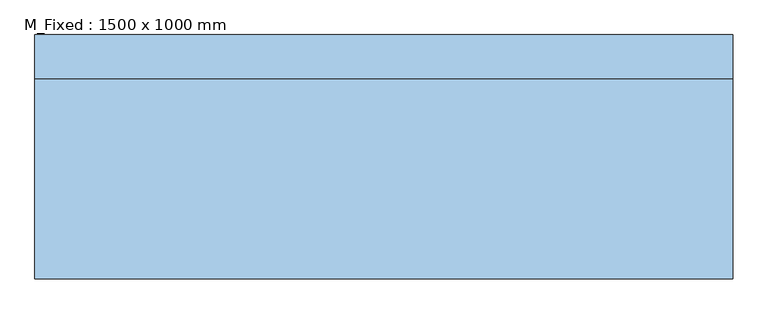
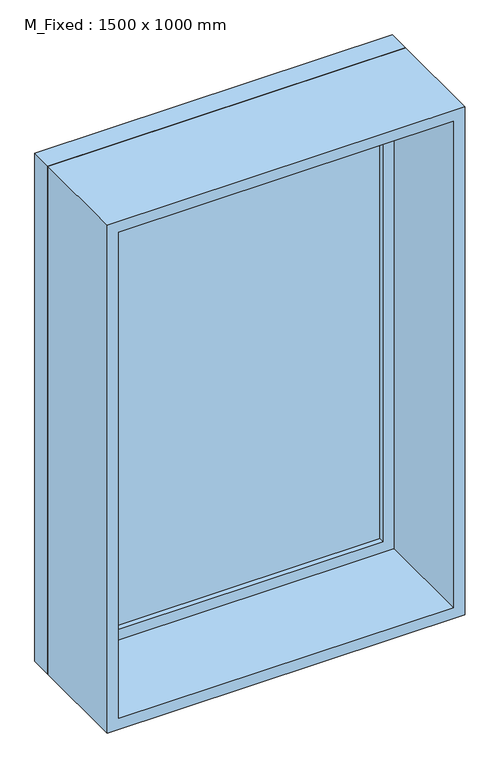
"""IFC4 building model written with IfcOpenShell, lengths in millimetres: window geometry, M_Fixed : 1500 x 1000 mm."""

from ifc_helpers import new_model, si_unit, frame, origin, place, context, project, spatial, polyline, outline, extrude, source, transform, mapped, element, save


def m_fixed_1500_x_1000_mm_dfda1408(model_context):
    return source(origin(), model_context, "Body", "SweptSolid", [
        extrude(outline(polyline([(-437.0, 153.0), (437.0, 153.0), (437.0, 141.0), (-437.0, 141.0), (-437.0, 153.0)])), frame((0.0, 0.0, 863.0), z_axis=(0.0, 0.0, 1.0), x_axis=(1.0, 0.0, 0.0)), (0.0, 0.0, 1.0), 1374.0),
        extrude(outline(polyline([(2281.0, -481.0), (819.0, -481.0), (819.0, 481.0), (2281.0, 481.0), (2281.0, -481.0)]), holes=[polyline([(2237.0, -437.0), (2237.0, 437.0), (863.0, 437.0), (863.0, -437.0), (2237.0, -437.0)])]), frame((0.0, 125.0, 0.0), z_axis=(0.0, 1.0, 0.0), x_axis=(0.0, 0.0, 1.0)), (0.0, 0.0, 1.0), 44.0),
        extrude(outline(polyline([(2300.0, -500.0), (800.0, -500.0), (800.0, 500.0), (2300.0, 500.0), (2300.0, -500.0)]), holes=[polyline([(2281.0, -481.0), (2281.0, 481.0), (819.0, 481.0), (819.0, -481.0), (2281.0, -481.0)])]), frame((0.0, 125.0, 0.0), z_axis=(0.0, 1.0, 0.0), x_axis=(0.0, 0.0, 1.0)), (0.0, 0.0, 1.0), 63.0),
        extrude(outline(polyline([(2300.0, -500.0), (800.0, -500.0), (800.0, 500.0), (2300.0, 500.0), (2300.0, -500.0)]), holes=[polyline([(2268.0, -468.0), (2268.0, 468.0), (832.0, 468.0), (832.0, -468.0), (2268.0, -468.0)])]), frame((0.0, -162.0, 0.0), z_axis=(0.0, 1.0, 0.0), x_axis=(0.0, 0.0, 1.0)), (0.0, 0.0, 1.0), 287.0),
    ])


if __name__ == "__main__":
    model = new_model("IFC4")
    model_context = context("Model", 3, world=origin())
    ifc_project = project(units=[si_unit("LENGTHUNIT", "METRE", prefix="MILLI")], contexts=[model_context])
    site = spatial("IfcSite", under=ifc_project)
    building = spatial("IfcBuilding", under=site)
    placement = place(None, origin())
    m_fixed_1500_x_1000_mm_shape = m_fixed_1500_x_1000_mm_dfda1408(model_context)
    element("IfcWindow", 1, ObjectType="M_Fixed : 1500 x 1000 mm", at=placement, inside=building, context=model_context, shape_type="MappedRepresentation", body=[
        mapped(m_fixed_1500_x_1000_mm_shape, transform((0.0, 0.0, 0.0), x_axis=(1.0, 0.0, 0.0), y_axis=(0.0, 1.0, 0.0), z_axis=(0.0, 0.0, 1.0))),
    ])
    save(model, "model.ifc")
